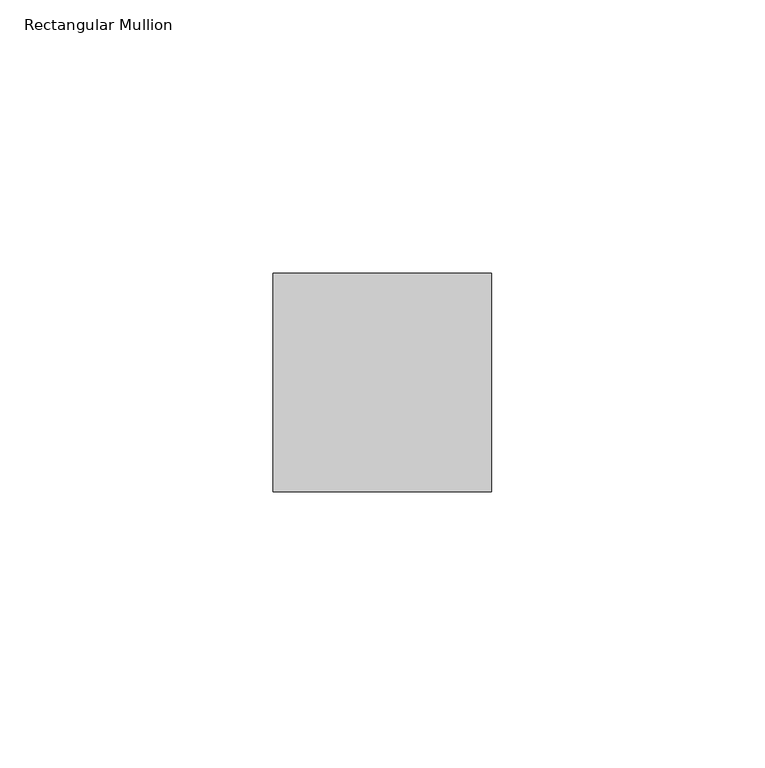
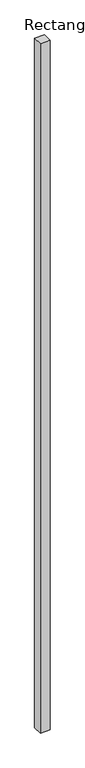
"""IFC4 building model written with IfcOpenShell, lengths in millimetres: member geometry, Rectangular Mullion : Batten_Aluminium_Modinex_AluBatten_40x40_AfricanEbony."""

from ifc_helpers import new_model, si_unit, frame, origin, place, context, project, spatial, polyline, outline, extrude, source, transform, mapped, element, save


def rectangular_mullion_5b385907(model_context):
    return source(origin(), model_context, "Body", "SweptSolid", [
        extrude(outline(polyline([(20.0, 40.0), (20.0, 0.0), (-20.0, 0.0), (-20.0, 40.0), (20.0, 40.0)])), frame((0.0, 0.0, -3000.0), z_axis=(0.0, 0.0, 1.0), x_axis=(1.0, 0.0, 0.0)), (0.0, 0.0, 1.0), 3000.0),
    ])


if __name__ == "__main__":
    model = new_model("IFC4")
    model_context = context("Model", 3, world=origin())
    ifc_project = project(units=[si_unit("LENGTHUNIT", "METRE", prefix="MILLI")], contexts=[model_context])
    site = spatial("IfcSite", under=ifc_project)
    building = spatial("IfcBuilding", under=site)
    placement = place(None, origin())
    rectangular_mullion_shape = rectangular_mullion_5b385907(model_context)
    element("IfcMember", 1, ObjectType="Rectangular Mullion : Batten_Aluminium_Modinex_AluBatten_40x40_AfricanEbony", at=placement, inside=building, context=model_context, shape_type="MappedRepresentation", body=[
        mapped(rectangular_mullion_shape, transform((0.0, 0.0, 0.0), x_axis=(1.0, 0.0, 0.0), y_axis=(0.0, 1.0, 0.0), z_axis=(0.0, 0.0, 1.0))),
    ])
    save(model, "model.ifc")
